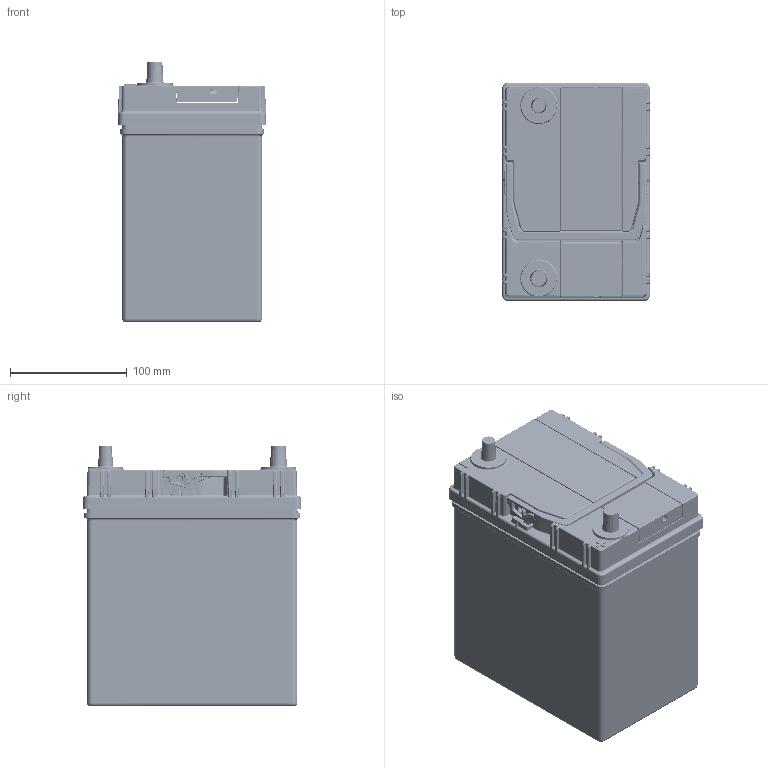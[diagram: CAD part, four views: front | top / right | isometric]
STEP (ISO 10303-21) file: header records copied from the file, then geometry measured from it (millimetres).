
FILE_DESCRIPTION(/* description */ (''),/* implementation_level */ '2;1');
FILE_NAME(/* name */ 'PMV B19L T1',/* time_stamp */ '2017-03-02T15:34:29+08:00',/* author */ (''),/* organization */ (''),/* preprocessor_version */ 'ST-DEVELOPER v9',/* originating_system */ 'EDS PLM SOLUTIONS - UNIGRAPHICS NX 2.0',/* authorisation */ '');
FILE_SCHEMA (('AUTOMOTIVE_DESIGN { 1 0 10303 214 0 1 1 1 }'));
Products named in the file (1): bxus7A4B62tv
Bounding box: 126.5 x 186.7 x 223 mm (x, y, z)
Volume: 718354.3 mm3; surface area: 654623 mm2
Topology: 6 solids, 14 shells, 7115 faces, 17656 edges, 10227 vertices
Faces by surface type: cylinder 2871, plane 1919, bspline 1786, cone 180, torus 176, sphere 167, revolution 14, extrusion 2
Full cylindrical faces by diameter (mm): 0.91 x56, 5.8 x2, 10.45 x2, 16.002 x12, 19.05 x6, 19.5 x4, 20.396 x1, 24.003 x1
Entity records: 378419 total; most frequent: CARTESIAN_POINT 186160, ORIENTED_EDGE 33760, DIRECTION 21664, EDGE_CURVE 16880, VERTEX_POINT 10144, B_SPLINE_CURVE_WITH_KNOTS 7883, AXIS2_PLACEMENT_3D 7522, EDGE_LOOP 7484
